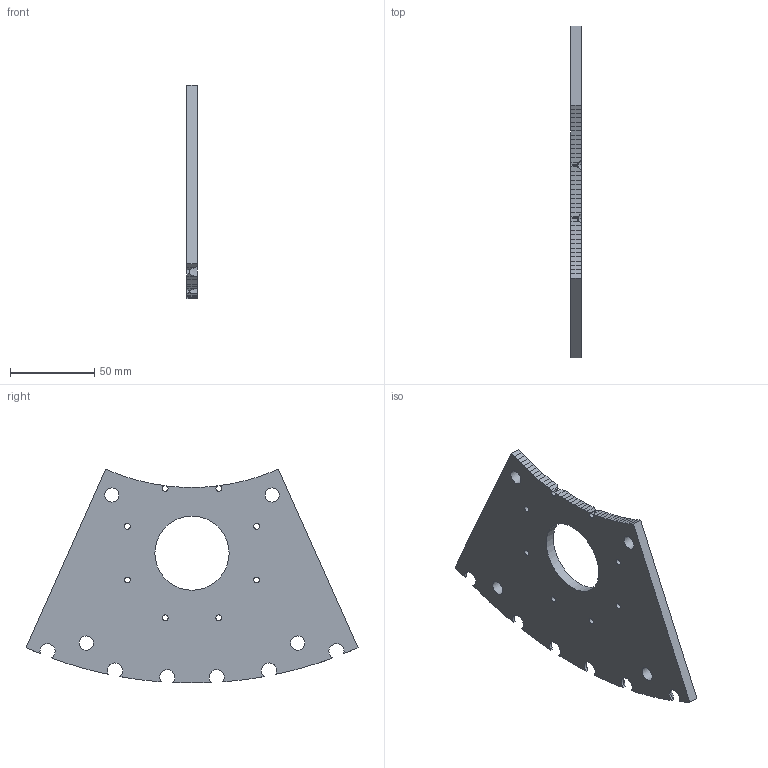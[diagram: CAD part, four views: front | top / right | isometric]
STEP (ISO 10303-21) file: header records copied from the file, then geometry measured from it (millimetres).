
FILE_DESCRIPTION(('Open CASCADE Model'),'2;1');
FILE_NAME('Open CASCADE Shape Model','2026-10-18T22:58:47',('Author'),( 'Open CASCADE'),'Open CASCADE STEP processor 7.9','Open CASCADE 7.9' ,'Unknown');
FILE_SCHEMA(('AUTOMOTIVE_DESIGN { 1 0 10303 214 1 1 1 1 }'));
Length unit declared in the file: millimetre
Products named in the file (1): Open CASCADE STEP translator 7.9 43
Bounding box: 6 x 196.86 x 126.88 mm (x, y, z)
Volume: 92530.2 mm3; surface area: 36664.7 mm2
Topology: 1 solids, 1 shells, 117 faces, 337 edges, 222 vertices
Faces by surface type: plane 80, cylinder 21, cone 16
Full cylindrical faces by diameter (mm): 3.4 x6, 8.4 x4, 44 x1
Entity records: 8438 total; most frequent: CARTESIAN_POINT 1845, DIRECTION 1207, LINE 777, VECTOR 777, ORIENTED_EDGE 674, PCURVE 674, DEFINITIONAL_REPRESENTATION 674, EDGE_CURVE 337
